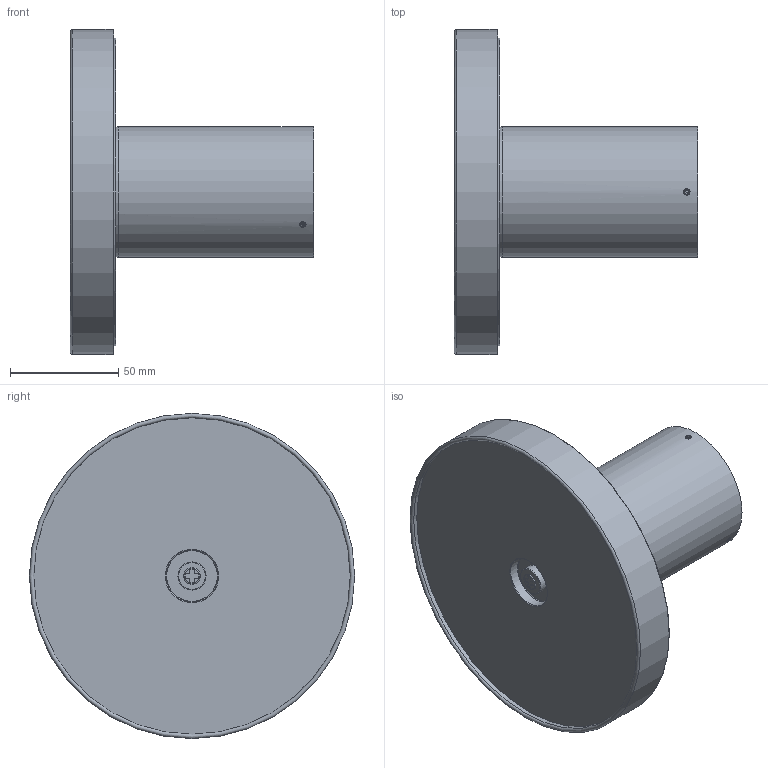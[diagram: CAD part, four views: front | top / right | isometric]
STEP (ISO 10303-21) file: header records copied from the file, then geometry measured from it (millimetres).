
FILE_DESCRIPTION (( 'STEP AP214' ), '1' );
FILE_NAME ('CHAMALEON-A3975101.STEP', '2026-01-13T08:20:21', ( '' ), ( '' ), 'SwSTEP 2.0', 'SolidWorks 2025', '' );
FILE_SCHEMA (( 'AUTOMOTIVE_DESIGN' ));
Length unit declared in the file: millimetre
Products named in the file (8): socket set screw flat point_din_DIN 913 - M3 x 4-N; A3975_tubo_v01; CHAMALEON-A3975101; A3975_junta_v01; A3975_iman; A3975_disipador; A3975_difusor; K1002344-Tapa instalación
Assembly tree (9 placements, depth 2):
  CHAMALEON-A3975101
    K1002344-Tapa instalación
    A3975_tubo_v01
    A3975_junta_v01
    A3975_difusor
    A3975_disipador
    A3975_iman
    socket set screw flat point_din_DIN 913 - M3 x 4-N  x3
Bounding box: 112.2 x 150 x 150 mm (x, y, z)
Volume: 198194.6 mm3; surface area: 125503.7 mm2
Topology: 9 solids, 9 shells, 107 faces, 216 edges, 140 vertices
Faces by surface type: plane 61, cylinder 32, cone 7, torus 7
Full cylindrical faces by diameter (mm): 2.5 x3, 3 x3, 3.4 x1, 7 x1, 13 x1, 24 x1, 25 x1, 46.5 x1, 49 x1, 55 x2, 55.2 x1, 56 x1, 57 x1, 60 x2, 142 x2, 146 x1, 150 x1
Entity records: 2507 total; most frequent: CARTESIAN_POINT 557, DIRECTION 382, ORIENTED_EDGE 266, AXIS2_PLACEMENT_3D 160, EDGE_LOOP 144, EDGE_CURVE 133, FACE_OUTER_BOUND 112, VERTEX_POINT 107
